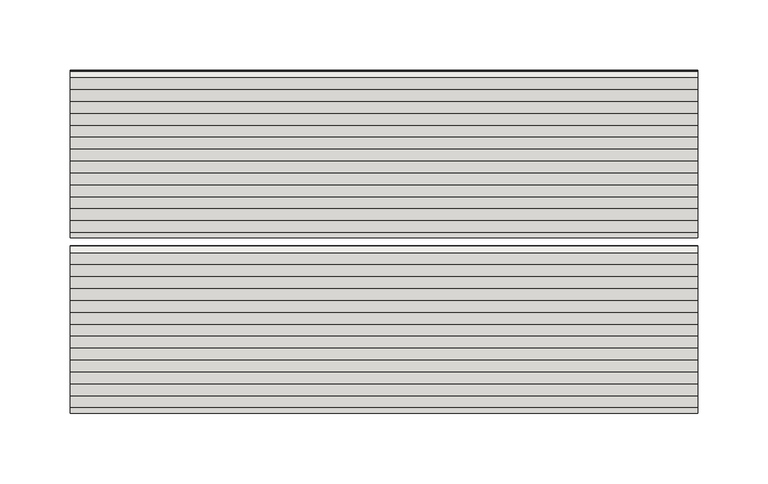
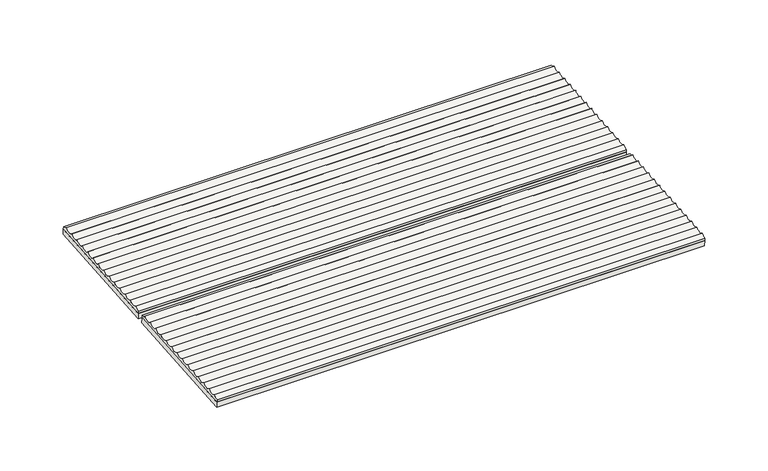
"""IFC4 building model written with IfcOpenShell, lengths in millimetres: slab geometry, ROSA GRES_001 (2 filas) : Piezas 001_Aqua_Blanco_Anti-Slip."""

from ifc_helpers import new_model, si_unit, point, frame, frame_2d, origin, place, context, project, spatial, polyline, circle_curve, trimmed, segment, composite_curve, outline, extrude, source, transform, mapped, element, save


def slab_289a159b(model_context):
    return source(origin(), model_context, "Body", "SweptSolid", [
        extrude(outline(polyline([(59.4997999, 0.0), (-59.4998, 0.0), (-59.4998, 446.1165048), (59.4997999, 446.1165048), (59.4997999, 0.0)])), frame((446.1165048, 183.3614376, 204.5238637), z_axis=(0.0, -0.08112705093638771, 0.9967037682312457), x_axis=(0.0, 0.9967037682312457, 0.08112705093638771)), (0.0, 0.0, 1.0), 5.0),
        extrude(outline(polyline([(59.4998, 0.0), (-59.4997999, 0.0), (-59.4997999, 446.1165048), (59.4998, 446.1165048), (59.4998, 0.0)])), frame((446.1165048, 307.9490099, 214.6647126), z_axis=(0.0, -0.08112705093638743, 0.9967037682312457), x_axis=(0.0, 0.9967037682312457, 0.08112705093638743)), (0.0, 0.0, 1.0), 5.0),
        extrude(outline(composite_curve([segment(polyline([(242.2594772, 214.3344258), (123.6521274, 204.6803392), (123.4389282, 207.2996439)]), True, "CONTINUOUS"), segment(trimmed(circle_curve(frame_2d((122.9853249, 212.8724843)), 5.5912705), [point((123.4389282, 207.2996439))], [point((127.5160501, 209.5960785))], True, "CARTESIAN"), True, "CONTINUOUS"), segment(trimmed(circle_curve(frame_2d((131.4572785, 213.5620619)), 5.5912705), [point((127.5160501, 209.5960785))], [point((135.9880037, 210.2856561))], True, "CARTESIAN"), True, "CONTINUOUS"), segment(trimmed(circle_curve(frame_2d((139.929232, 214.2516395)), 5.5912705), [point((135.9880037, 210.2856561))], [point((144.4599572, 210.9752337))], True, "CARTESIAN"), True, "CONTINUOUS"), segment(trimmed(circle_curve(frame_2d((148.4011856, 214.9412171)), 5.5912705), [point((144.4599572, 210.9752337))], [point((152.9319108, 211.6648113))], True, "CARTESIAN"), True, "CONTINUOUS"), segment(trimmed(circle_curve(frame_2d((156.8731392, 215.6307947)), 5.5912705), [point((152.9319108, 211.6648113))], [point((161.4038643, 212.3543889))], True, "CARTESIAN"), True, "CONTINUOUS"), segment(trimmed(circle_curve(frame_2d((165.3450927, 216.3203723)), 5.5912705), [point((161.4038643, 212.3543889))], [point((169.8758179, 213.0439666))], True, "CARTESIAN"), True, "CONTINUOUS"), segment(trimmed(circle_curve(frame_2d((173.8170463, 217.00995)), 5.5912705), [point((169.8758179, 213.0439666))], [point((178.3477714, 213.7335442))], True, "CARTESIAN"), True, "CONTINUOUS"), segment(trimmed(circle_curve(frame_2d((182.2889998, 217.6995276)), 5.5912705), [point((178.3477714, 213.7335442))], [point((186.819725, 214.4231218))], True, "CARTESIAN"), True, "CONTINUOUS"), segment(trimmed(circle_curve(frame_2d((190.7609534, 218.3891052)), 5.5912705), [point((186.819725, 214.4231218))], [point((195.2916785, 215.1126994))], True, "CARTESIAN"), True, "CONTINUOUS"), segment(trimmed(circle_curve(frame_2d((199.2329069, 219.0786828)), 5.5912705), [point((195.2916785, 215.1126994))], [point((203.7636321, 215.802277))], True, "CARTESIAN"), True, "CONTINUOUS"), segment(trimmed(circle_curve(frame_2d((207.7048605, 219.7682604)), 5.5912705), [point((203.7636321, 215.802277))], [point((212.2355856, 216.4918546))], True, "CARTESIAN"), True, "CONTINUOUS"), segment(trimmed(circle_curve(frame_2d((216.176814, 220.457838)), 5.5912705), [point((212.2355856, 216.4918546))], [point((220.7075392, 217.1814322))], True, "CARTESIAN"), True, "CONTINUOUS"), segment(trimmed(circle_curve(frame_2d((224.6487676, 221.1474157)), 5.5912705), [point((220.7075392, 217.1814322))], [point((229.1794928, 217.8710099))], True, "CARTESIAN"), True, "CONTINUOUS"), segment(trimmed(circle_curve(frame_2d((233.1207211, 221.8369933)), 5.5912705), [point((229.1794928, 217.8710099))], [point((237.6514463, 218.5605875))], True, "CARTESIAN"), True, "CONTINUOUS"), segment(trimmed(circle_curve(frame_2d((241.5926747, 222.5265709)), 5.5912705), [point((237.6514463, 218.5605875))], [point((242.046278, 216.9537305))], True, "CARTESIAN"), True, "CONTINUOUS"), segment(polyline([(242.046278, 216.9537305), (242.2594772, 214.3344258)]), True, "CONTINUOUS")], self_intersect=False)), frame((0.0, 0.0, 0.0), z_axis=(1.0, 0.0, 0.0), x_axis=(0.0, 1.0, 0.0)), (0.0, 0.0, 1.0), 446.1165048),
        extrude(outline(composite_curve([segment(polyline([(366.8470495, 224.4752747), (248.2396998, 214.8211881), (248.0265006, 217.4404928)]), True, "CONTINUOUS"), segment(trimmed(circle_curve(frame_2d((247.5728973, 223.0133332)), 5.5912705), [point((248.0265006, 217.4404928))], [point((252.1036225, 219.7369274))], True, "CARTESIAN"), True, "CONTINUOUS"), segment(trimmed(circle_curve(frame_2d((256.0448508, 223.7029108)), 5.5912705), [point((252.1036225, 219.7369274))], [point((260.575576, 220.426505))], True, "CARTESIAN"), True, "CONTINUOUS"), segment(trimmed(circle_curve(frame_2d((264.5168044, 224.3924884)), 5.5912705), [point((260.575576, 220.426505))], [point((269.0475296, 221.1160826))], True, "CARTESIAN"), True, "CONTINUOUS"), segment(trimmed(circle_curve(frame_2d((272.9887579, 225.082066)), 5.5912705), [point((269.0475296, 221.1160826))], [point((277.5194831, 221.8056602))], True, "CARTESIAN"), True, "CONTINUOUS"), segment(trimmed(circle_curve(frame_2d((281.4607115, 225.7716436)), 5.5912705), [point((277.5194831, 221.8056602))], [point((285.9914367, 222.4952379))], True, "CARTESIAN"), True, "CONTINUOUS"), segment(trimmed(circle_curve(frame_2d((289.9326651, 226.4612213)), 5.5912705), [point((285.9914367, 222.4952379))], [point((294.4633902, 223.1848155))], True, "CARTESIAN"), True, "CONTINUOUS"), segment(trimmed(circle_curve(frame_2d((298.4046186, 227.1507989)), 5.5912705), [point((294.4633902, 223.1848155))], [point((302.9353438, 223.8743931))], True, "CARTESIAN"), True, "CONTINUOUS"), segment(trimmed(circle_curve(frame_2d((306.8765722, 227.8403765)), 5.5912705), [point((302.9353438, 223.8743931))], [point((311.4072973, 224.5639707))], True, "CARTESIAN"), True, "CONTINUOUS"), segment(trimmed(circle_curve(frame_2d((315.3485257, 228.5299541)), 5.5912705), [point((311.4072973, 224.5639707))], [point((319.8792509, 225.2535483))], True, "CARTESIAN"), True, "CONTINUOUS"), segment(trimmed(circle_curve(frame_2d((323.8204793, 229.2195317)), 5.5912705), [point((319.8792509, 225.2535483))], [point((328.3512044, 225.9431259))], True, "CARTESIAN"), True, "CONTINUOUS"), segment(trimmed(circle_curve(frame_2d((332.2924328, 229.9091093)), 5.5912705), [point((328.3512044, 225.9431259))], [point((336.823158, 226.6327035))], True, "CARTESIAN"), True, "CONTINUOUS"), segment(trimmed(circle_curve(frame_2d((340.7643864, 230.5986869)), 5.5912705), [point((336.823158, 226.6327035))], [point((345.2951115, 227.3222812))], True, "CARTESIAN"), True, "CONTINUOUS"), segment(trimmed(circle_curve(frame_2d((349.2363399, 231.2882646)), 5.5912705), [point((345.2951115, 227.3222812))], [point((353.7670651, 228.0118588))], True, "CARTESIAN"), True, "CONTINUOUS"), segment(trimmed(circle_curve(frame_2d((357.7082935, 231.9778422)), 5.5912705), [point((353.7670651, 228.0118588))], [point((362.2390187, 228.7014364))], True, "CARTESIAN"), True, "CONTINUOUS"), segment(trimmed(circle_curve(frame_2d((366.180247, 232.6674198)), 5.5912705), [point((362.2390187, 228.7014364))], [point((366.6338503, 227.0945794))], True, "CARTESIAN"), True, "CONTINUOUS"), segment(polyline([(366.6338503, 227.0945794), (366.8470495, 224.4752747)]), True, "CONTINUOUS")], self_intersect=False)), frame((0.0, 0.0, 0.0), z_axis=(1.0, 0.0, 0.0), x_axis=(0.0, 1.0, 0.0)), (0.0, 0.0, 1.0), 446.1165048),
    ])


if __name__ == "__main__":
    model = new_model("IFC4")
    model_context = context("Model", 3, world=origin())
    ifc_project = project(units=[si_unit("LENGTHUNIT", "METRE", prefix="MILLI")], contexts=[model_context])
    site = spatial("IfcSite", under=ifc_project)
    building = spatial("IfcBuilding", under=site)
    placement = place(None, origin())
    slab_shape = slab_289a159b(model_context)
    element("IfcSlab", 1, ObjectType="ROSA GRES_001 (2 filas) : Piezas 001_Aqua_Blanco_Anti-Slip", at=placement, inside=building, context=model_context, shape_type="MappedRepresentation", body=[
        mapped(slab_shape, transform((0.0, 0.0, 0.0), x_axis=(1.0, 0.0, 0.0), y_axis=(0.0, 1.0, 0.0), z_axis=(0.0, 0.0, 1.0))),
    ])
    save(model, "model.ifc")
